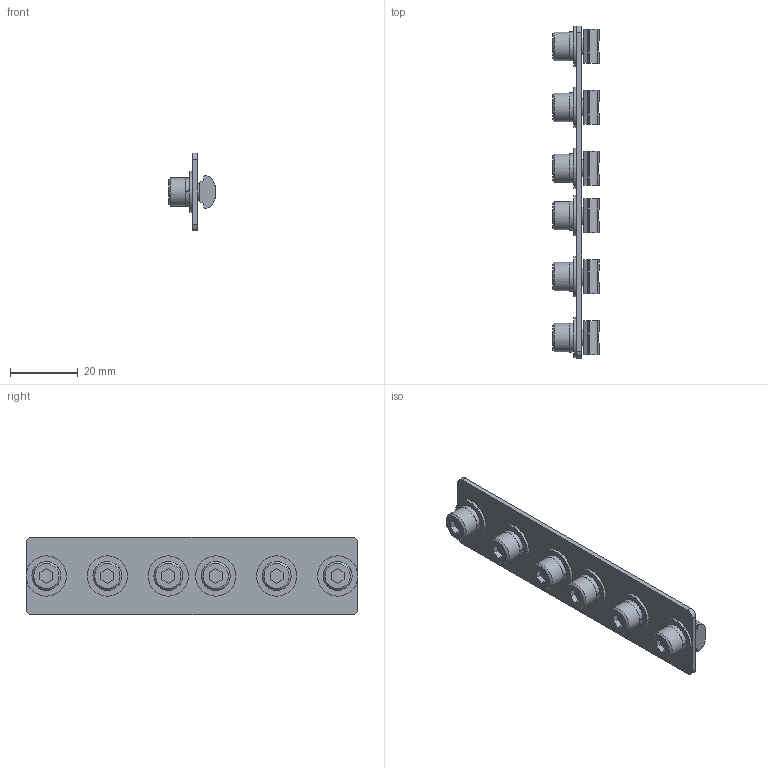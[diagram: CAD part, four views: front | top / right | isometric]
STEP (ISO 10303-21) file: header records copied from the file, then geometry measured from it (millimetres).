
FILE_DESCRIPTION(('STEP AP214'),'1');
FILE_NAME('SP2A-B.stp','2016-10-19T08:55:50',(' '),(' '),'Spatial InterOp 3D',' ',' ');
FILE_SCHEMA(('automotive_design'));
Length unit declared in the file: millimetre
Products named in the file (6): SP2A-B; SP2A-H
Assembly tree (25 placements, depth 2):
  SP2A-B
    (unnamed)  x6
    (unnamed)  x6
    (unnamed)  x6
    (unnamed)  x6
    SP2A-H
Bounding box: 13.73 x 98 x 23 mm (x, y, z)
Volume: 7899.9 mm3; surface area: 11181.6 mm2
Topology: 25 solids, 25 shells, 310 faces, 756 edges, 502 vertices
Faces by surface type: plane 180, cylinder 118, cone 12
Full cylindrical faces by diameter (mm): 5 x6, 5.2 x6, 5.5 x6, 8.385 x6, 11.9 x6
Entity records: 2467 total; most frequent: DIRECTION 388, CARTESIAN_POINT 365, ORIENTED_EDGE 296, AXIS2_PLACEMENT_3D 153, EDGE_CURVE 148, VERTEX_POINT 106, EDGE_LOOP 94, LINE 82
